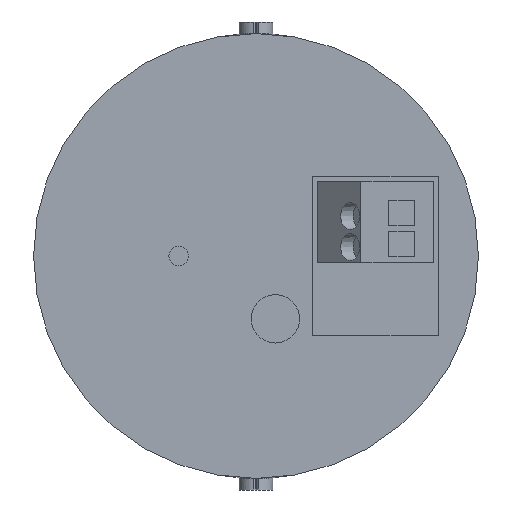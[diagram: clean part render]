
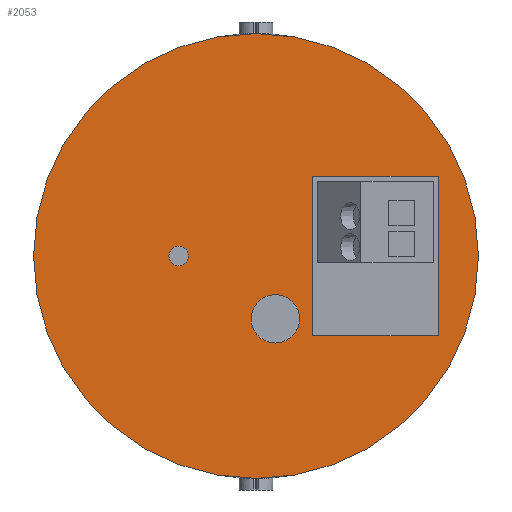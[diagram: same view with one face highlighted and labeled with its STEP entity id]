
A CAD part, front view. The second image highlights one B-rep face of the part: STEP entity #2053.
In plain terms, the highlighted planar face has unit normal (0, -1, 0).
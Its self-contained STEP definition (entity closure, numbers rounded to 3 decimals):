
#61=FACE_BOUND('',#303,.T.);
#62=FACE_BOUND('',#304,.T.);
#63=FACE_BOUND('',#305,.T.);
#77=CIRCLE('',#2160,2.5);
#101=CIRCLE('',#2206,23.);
#102=CIRCLE('',#2208,1.);
#175=FACE_OUTER_BOUND('',#302,.T.);
#302=EDGE_LOOP('',(#1435));
#303=EDGE_LOOP('',(#1436));
#304=EDGE_LOOP('',(#1437,#1438,#1439,#1440));
#305=EDGE_LOOP('',(#1441));
#432=LINE('',#2963,#635);
#443=LINE('',#3010,#646);
#445=LINE('',#3014,#648);
#465=LINE('',#3208,#668);
#635=VECTOR('',#2397,16.5);
#646=VECTOR('',#2442,13.);
#648=VECTOR('',#2446,16.5);
#668=VECTOR('',#2528,13.);
#827=VERTEX_POINT('',#2960);
#828=VERTEX_POINT('',#2962);
#829=VERTEX_POINT('',#2966);
#847=VERTEX_POINT('',#3008);
#848=VERTEX_POINT('',#3012);
#885=VERTEX_POINT('',#3205);
#886=VERTEX_POINT('',#3209);
#1029=EDGE_CURVE('',#827,#828,#432,.T.);
#1031=EDGE_CURVE('',#829,#829,#77,.T.);
#1050=EDGE_CURVE('',#847,#827,#443,.T.);
#1052=EDGE_CURVE('',#848,#847,#445,.T.);
#1098=EDGE_CURVE('',#885,#885,#101,.T.);
#1099=EDGE_CURVE('',#828,#848,#465,.T.);
#1100=EDGE_CURVE('',#886,#886,#102,.T.);
#1435=ORIENTED_EDGE('',*,*,#1098,.T.);
#1436=ORIENTED_EDGE('',*,*,#1031,.T.);
#1437=ORIENTED_EDGE('',*,*,#1099,.F.);
#1438=ORIENTED_EDGE('',*,*,#1029,.F.);
#1439=ORIENTED_EDGE('',*,*,#1050,.F.);
#1440=ORIENTED_EDGE('',*,*,#1052,.F.);
#1441=ORIENTED_EDGE('',*,*,#1100,.T.);
#1839=PLANE('',#2207);
#2053=ADVANCED_FACE('',(#175,#61,#62,#63),#1839,.T.);
#2160=AXIS2_PLACEMENT_3D('',#2967,#2401,#2402);
#2206=AXIS2_PLACEMENT_3D('',#3206,#2524,#2525);
#2207=AXIS2_PLACEMENT_3D('',#3207,#2526,#2527);
#2208=AXIS2_PLACEMENT_3D('',#3210,#2529,#2530);
#2397=DIRECTION('',(0.,0.,-1.));
#2401=DIRECTION('center_axis',(0.,1.,0.));
#2402=DIRECTION('ref_axis',(0.,0.,1.));
#2442=DIRECTION('',(-1.,0.,0.));
#2446=DIRECTION('',(0.,0.,1.));
#2524=DIRECTION('center_axis',(0.,-1.,0.));
#2525=DIRECTION('ref_axis',(0.,0.,-1.));
#2526=DIRECTION('center_axis',(0.,-1.,0.));
#2527=DIRECTION('ref_axis',(1.,0.,0.));
#2528=DIRECTION('',(1.,0.,0.));
#2529=DIRECTION('center_axis',(0.,1.,0.));
#2530=DIRECTION('ref_axis',(0.,0.,1.));
#2960=CARTESIAN_POINT('',(5.85,-1.1,8.25));
#2962=CARTESIAN_POINT('',(5.85,-1.1,-8.25));
#2963=CARTESIAN_POINT('',(5.85,-1.1,8.25));
#2966=CARTESIAN_POINT('',(2.,-1.1,-9.));
#2967=CARTESIAN_POINT('Origin',(2.,-1.1,-6.5));
#3008=CARTESIAN_POINT('',(18.85,-1.1,8.25));
#3010=CARTESIAN_POINT('',(18.85,-1.1,8.25));
#3012=CARTESIAN_POINT('',(18.85,-1.1,-8.25));
#3014=CARTESIAN_POINT('',(18.85,-1.1,-8.25));
#3205=CARTESIAN_POINT('',(0.,-1.1,23.));
#3206=CARTESIAN_POINT('Origin',(0.,-1.1,0.));
#3207=CARTESIAN_POINT('Origin',(0.,-1.1,11.5));
#3208=CARTESIAN_POINT('',(5.85,-1.1,-8.25));
#3209=CARTESIAN_POINT('',(-8.,-1.1,1.));
#3210=CARTESIAN_POINT('Origin',(-8.,-1.1,0.));
